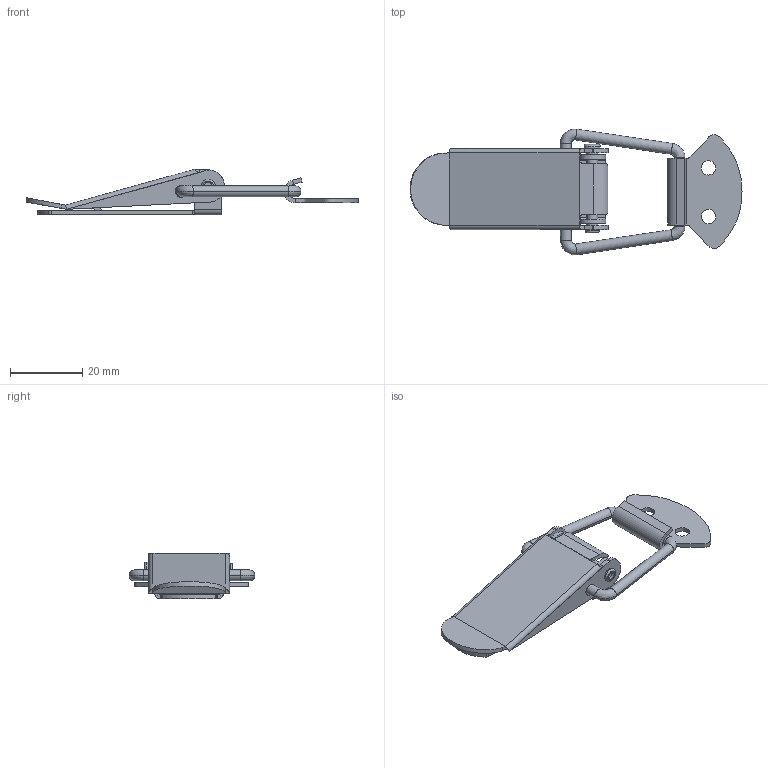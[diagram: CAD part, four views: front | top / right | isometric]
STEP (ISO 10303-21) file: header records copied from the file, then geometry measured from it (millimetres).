
FILE_DESCRIPTION(/* description */ (''),/* implementation_level */ '2;1');
FILE_NAME(/* name */ 'DK503-2',/* time_stamp */ '2025-03-19T15:54:16+08:00',/* author */ (''),/* organization */ (''),/* preprocessor_version */ 'ST-DEVELOPER v19.2',/* originating_system */ 'Rhino 8.5',/* authorisation */ '');
FILE_SCHEMA (('CONFIG_CONTROL_DESIGN'));
Length unit declared in the file: millimetre
Products named in the file (1): Document
Bounding box: 91.92 x 34.84 x 12.65 mm (x, y, z)
Volume: 1598.8 mm3; surface area: 7899.2 mm2
Topology: 3 solids, 5 shells, 169 faces, 427 edges, 259 vertices
Faces by surface type: plane 76, cylinder 75, bspline 18
Entity records: 6232 total; most frequent: CARTESIAN_POINT 2644, ORIENTED_EDGE 824, DIRECTION 467, EDGE_CURVE 425, AXIS2_PLACEMENT_3D 309, VERTEX_POINT 259, EDGE_LOOP 192, B_SPLINE_CURVE_WITH_KNOTS 192
